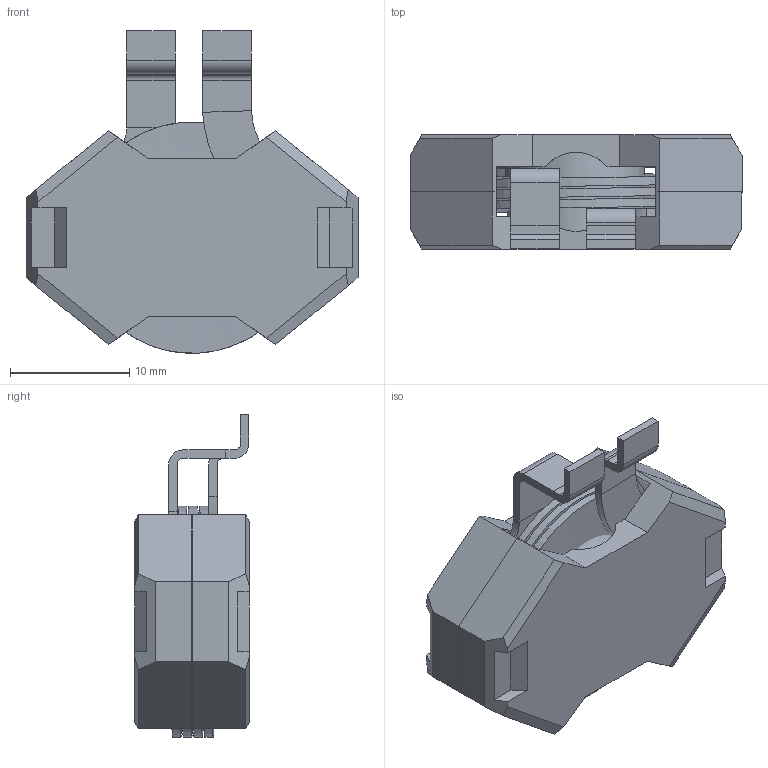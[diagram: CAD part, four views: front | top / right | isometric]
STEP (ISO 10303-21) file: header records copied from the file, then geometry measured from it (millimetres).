
FILE_DESCRIPTION (( 'STEP AP214' ), '1' );
FILE_NAME ('CWS-39677 REV.H.STEP', '2019-08-01T19:18:19', ( '' ), ( '' ), 'SwSTEP 2.0', 'SolidWorks 2015', '' );
FILE_SCHEMA (( 'AUTOMOTIVE_DESIGN' ));
Length unit declared in the file: inch
Products named in the file (7): CWS-39677 case; CWS-39677 coil; CWS-39677 REV.H
Assembly tree (4 placements, depth 2):
  CWS-39677 case
  CWS-39677 case
  CWS-39677 REV.H
    CWS-39677 case  x2
    CWS-39677 coil
  CWS-39677 REV.H
    CWS-39677 coil
Bounding box: 27.8 x 9.6 x 27.01 mm (x, y, z)
Volume: 3263 mm3; surface area: 4455.8 mm2
Topology: 3 solids, 6 shells, 162 faces, 414 edges, 268 vertices
Faces by surface type: plane 125, cylinder 31, bspline 6
Full cylindrical faces by diameter (mm): 11.5 x2
Entity records: 5320 total; most frequent: CARTESIAN_POINT 1628, ORIENTED_EDGE 612, DIRECTION 595, EDGE_CURVE 306, LINE 245, VECTOR 245, VERTEX_POINT 195, AXIS2_PLACEMENT_3D 175
